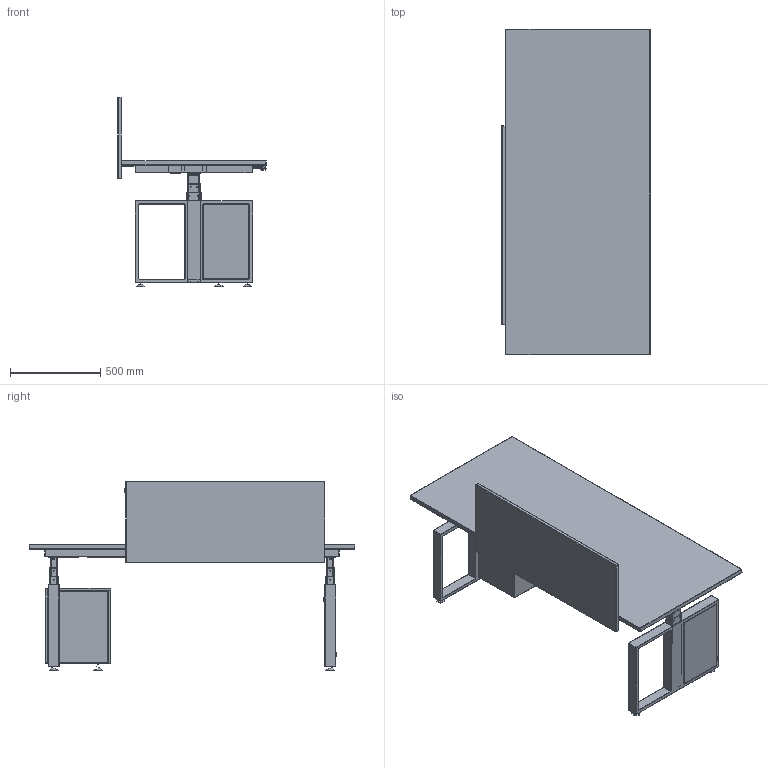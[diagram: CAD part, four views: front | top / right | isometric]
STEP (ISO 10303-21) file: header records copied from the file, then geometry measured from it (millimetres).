
FILE_DESCRIPTION ((), '1');
FILE_NAME ('C:\D\DESING\TABLE DESK PROJECT\MODESK WEB\3D MODELY KE STAZENI\ELEMENTS\MODESK_ELEMENTS_1800 + SKRINKA.stp', '2019-08-02T13:10:36', ('Unknown'), ('Unknown'), 'HarmonyWare STEP v1.4.3', 'HarmonyWare Translators', '');
FILE_SCHEMA (('CONFIG_CONTROL_DESIGN'));
Length unit declared in the file: millimetre
Products named in the file (156): MODESK_ELEMENTS_ 1800 + SKRINKA
Bounding box: 820 x 1800 x 1047.05 mm (x, y, z)
Volume: 43223326.8 mm3; surface area: 11109703.3 mm2
Topology: 78 solids, 156 shells, 5866 faces, 15811 edges, 10113 vertices
Faces by surface type: bspline 5866
Entity records: 313180 total; most frequent: CARTESIAN_POINT 209638, ORIENTED_EDGE 29980, EDGE_CURVE 15578, B_SPLINE_CURVE_WITH_KNOTS 10292, VERTEX_POINT 10124, EDGE_LOOP 6379, FACE_OUTER_BOUND 5866, ADVANCED_FACE 5866
